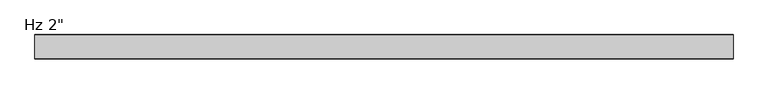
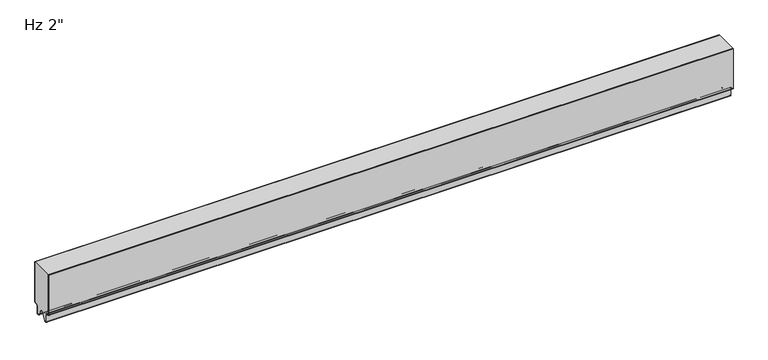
"""IFC4 building model written with IfcOpenShell, lengths in millimetres: plate geometry."""

import ifcopenshell
import ifcopenshell.guid

model = None  # the IFC model being written
_history = None  # IfcOwnerHistory: only IFC2X3 demands one
_inside = {}  # id of a spatial element -> (the spatial element, [elements in it])
_under = {}  # id of a project, library or spatial element -> (it, [spatial elements below it])
_declared = {}  # id of a project -> (the project, [libraries it declares])
_typed = {}  # id of a type object -> (the type object, [elements of that type])
_made_of = {}  # id of a material, layer set ... -> (it, [elements and type objects made of it])


def new_model(schema):
    """Start an empty IFC model of exactly this schema.

    Asked for "IFC4X3", IfcOpenShell would pick the latest addendum, in which some entities
    have other attributes; the version numbers below select the first issue.
    IFC2X3 requires an IfcOwnerHistory on every rooted entity: one is made here for all.
    """
    global model, _history
    if schema == "IFC4X3":
        model = ifcopenshell.file(schema_version=(4, 3, 0, 0))
    else:
        model = ifcopenshell.file(schema=schema)
    _inside.clear()
    _under.clear()
    _declared.clear()
    _typed.clear()
    _made_of.clear()
    _history = None
    if model.schema == "IFC2X3":
        org = make("IfcOrganization", Name="unknown")
        user = make(
            "IfcPersonAndOrganization",
            ThePerson=make("IfcPerson", FamilyName="unknown"),
            TheOrganization=org,
        )
        app = make(
            "IfcApplication",
            ApplicationDeveloper=org,
            Version="unknown",
            ApplicationFullName="unknown",
            ApplicationIdentifier="unknown",
        )
        _history = make(
            "IfcOwnerHistory",
            OwningUser=user,
            OwningApplication=app,
            ChangeAction="ADDED",
            CreationDate=0,
        )
    return model


def make(cls, **values):
    """One entity of the class cls with the attributes given. An attribute that is None is left unset."""
    return model.create_entity(
        cls, **{name: value for name, value in values.items() if value is not None}
    )


def rooted(cls, **values):
    """An entity with a GlobalId (a new one), such as an element, a storey or a relation."""
    return make(cls, GlobalId=ifcopenshell.guid.new(), OwnerHistory=_history, **values)


def si_unit(unit_type, name, prefix=None):
    """IfcSIUnit, for example si_unit("LENGTHUNIT", "METRE", prefix="MILLI")."""
    return make("IfcSIUnit", UnitType=unit_type, Prefix=prefix, Name=name)


def assignment(units):
    """IfcUnitAssignment: the units of a project."""
    return None if units is None else make("IfcUnitAssignment", Units=units)


def point(xyz):
    """IfcCartesianPoint."""
    return None if xyz is None else make("IfcCartesianPoint", Coordinates=xyz)


def direction(xyz):
    """IfcDirection."""
    return None if xyz is None else make("IfcDirection", DirectionRatios=xyz)


def frame(location, z_axis=None, x_axis=None):
    """IfcAxis2Placement3D, a coordinate frame: its origin and axes. An axis left out is left unset."""
    return make(
        "IfcAxis2Placement3D",
        Location=point(location),
        Axis=direction(z_axis),
        RefDirection=direction(x_axis),
    )


def origin():
    """The frame at (0, 0, 0) with its axes left unset."""
    return frame((0.0, 0.0, 0.0))


def place(relative_to, where):
    """IfcLocalPlacement: puts the frame where relative to a parent placement (None: the world)."""
    return make(
        "IfcLocalPlacement", PlacementRelTo=relative_to, RelativePlacement=where
    )


def context(
    kind, dimensions, precision=None, world=None, true_north=None, identifier=None
):
    """IfcGeometricRepresentationContext, for example the 3D "Model" context."""
    return make(
        "IfcGeometricRepresentationContext",
        ContextIdentifier=identifier,
        ContextType=kind,
        CoordinateSpaceDimension=dimensions,
        Precision=precision,
        WorldCoordinateSystem=world,
        TrueNorth=true_north,
    )


def project(units=None, contexts=None):
    """IfcProject with its units and contexts."""
    return rooted(
        "IfcProject",
        Name="project",
        RepresentationContexts=contexts,
        UnitsInContext=assignment(units),
    )


def spatial(cls, under=None, at=None, **own):
    """A site, building, storey or space (cls), placed at a placement, below another one or the project."""
    s = rooted(cls, ObjectPlacement=at, **own)
    if under is not None:
        _under.setdefault(under.id(), (under, []))[1].append(s)
    return s


def polyline(points):
    """IfcPolyline through the points."""
    return make("IfcPolyline", Points=[point(p) for p in points])


def circle_curve(where, radius):
    """IfcCircle in the frame where."""
    return make("IfcCircle", Position=where, Radius=radius)


def shape(context_of_items, identifier, shape_type, items):
    """IfcShapeRepresentation: the items that make up one representation, for example the "Body"."""
    return make(
        "IfcShapeRepresentation",
        ContextOfItems=context_of_items,
        RepresentationIdentifier=identifier,
        RepresentationType=shape_type,
        Items=items,
    )


def source(mapping_origin, context_of_items, identifier, shape_type, items):
    """IfcRepresentationMap: a shape defined once, which mapped items show again and again."""
    return make(
        "IfcRepresentationMap",
        MappingOrigin=mapping_origin,
        MappedRepresentation=shape(context_of_items, identifier, shape_type, items),
    )


def transform(
    local_origin,
    x_axis=None,
    y_axis=None,
    z_axis=None,
    scale=None,
    scale2=None,
    scale3=None,
    uniform=True,
):
    """IfcCartesianTransformationOperator3D, or its non-uniform kind. x_axis, y_axis, z_axis: its Axis1, 2, 3."""
    if uniform:
        return make(
            "IfcCartesianTransformationOperator3D",
            Axis1=direction(x_axis),
            Axis2=direction(y_axis),
            LocalOrigin=point(local_origin),
            Scale=scale,
            Axis3=direction(z_axis),
        )
    return make(
        "IfcCartesianTransformationOperator3DnonUniform",
        Axis1=direction(x_axis),
        Axis2=direction(y_axis),
        LocalOrigin=point(local_origin),
        Scale=scale,
        Axis3=direction(z_axis),
        Scale2=scale2,
        Scale3=scale3,
    )


def mapped(mapping_source, mapping_target):
    """IfcMappedItem: shows the shape of a source again, moved by a transform."""
    return make(
        "IfcMappedItem", MappingSource=mapping_source, MappingTarget=mapping_target
    )


def made_of(thing, what):
    """Note that an element or type object is made of a material, layer set ...; save() writes the relation."""
    if what is not None:
        _made_of.setdefault(what.id(), (what, []))[1].append(thing)
    return thing


def element(
    cls,
    number,
    at=None,
    inside=None,
    cuts=None,
    type_object=None,
    material=None,
    context=None,
    identifier="Body",
    shape_type=None,
    held_by="IfcProductDefinitionShape",
    body=None,
    shapes=None,
    **own,
):
    """One element of the class cls, such as IfcWall. Its Tag is "e" and its number.

    at: its placement. inside: the storey or other place that contains it. cuts: it is an
    opening in that element (IfcRelVoidsElement). A single representation is given by context,
    identifier, shape_type and body (its items); several are given by shapes. held_by: the class
    of the entity that holds the representations. save() writes the other relations.
    """
    e = rooted(cls, Tag="e%d" % number, ObjectPlacement=at, **own)
    if body is not None:
        shapes = [shape(context, identifier, shape_type, body)]
    if shapes is not None:
        e.Representation = make(held_by, Representations=shapes)
    if inside is not None:
        _inside.setdefault(inside.id(), (inside, []))[1].append(e)
    if cuts is not None:
        rooted(
            "IfcRelVoidsElement", RelatingBuildingElement=cuts, RelatedOpeningElement=e
        )
    if type_object is not None:
        _typed.setdefault(type_object.id(), (type_object, []))[1].append(e)
    return made_of(e, material)


def aggregate(whole, parts):
    """IfcRelAggregates: a whole, such as a stair, and the parts it consists of."""
    return rooted("IfcRelAggregates", RelatingObject=whole, RelatedObjects=parts)


def save(model, path):
    """Write the relations noted so far, then the file.

    IfcRelAggregates (storeys below a building ...), IfcRelContainedInSpatialStructure (elements
    in a storey), IfcRelDefinesByType, IfcRelAssociatesMaterial and IfcRelDeclares: one each for
    every whole, place, type object, material and project.
    """
    for whole, parts in _under.values():
        aggregate(whole, parts)
    for where, things in _inside.values():
        rooted(
            "IfcRelContainedInSpatialStructure",
            RelatedElements=things,
            RelatingStructure=where,
        )
    for kind, things in _typed.values():
        rooted("IfcRelDefinesByType", RelatedObjects=things, RelatingType=kind)
    for what, things in _made_of.values():
        rooted("IfcRelAssociatesMaterial", RelatedObjects=things, RelatingMaterial=what)
    for by, libraries in _declared.values():
        rooted("IfcRelDeclares", RelatingContext=by, RelatedDefinitions=libraries)
    model.write(path)


def plane_surface(at):
    """IfcPlane: the flat surface through the origin of the frame at, square to its z axis."""
    return make("IfcPlane", Position=at)


def cylinder_surface(at, radius):
    """IfcCylindricalSurface: all points at the distance radius from the z axis of the frame at."""
    return make("IfcCylindricalSurface", Position=at, Radius=radius)


def revolved_surface(curve, axis_point, axis_direction):
    """IfcSurfaceOfRevolution: the curve turned about the line through axis_point along axis_direction."""
    return make(
        "IfcSurfaceOfRevolution",
        SweptCurve=make("IfcArbitraryOpenProfileDef", ProfileType="CURVE", Curve=curve),
        AxisPosition=make("IfcAxis1Placement", Location=point(axis_point), Axis=direction(axis_direction)),
    )


def advanced_brep(points, edges, surfaces, faces):
    """IfcAdvancedBrep: a solid bounded by faces that lie on surfaces and meet in shared edges.

    An edge is (start, end): straight between two places in points (the first is 0);
    or (start, end, curve); or (start, end, curve, False) where it runs against its curve.
    A face is (place in surfaces, loops), or (place, loops, False) where it looks against
    its surface's normal. A loop lists edges by number (the first is 1), with a minus sign
    where the edge is run from its end to its start. The first loop is the outer one.
    """
    corners = [point(p) for p in points]
    vertices = [make("IfcVertexPoint", VertexGeometry=c) for c in corners]
    made = []
    for start, end, *more in edges:
        made.append(
            make(
                "IfcEdgeCurve",
                EdgeStart=vertices[start],
                EdgeEnd=vertices[end],
                EdgeGeometry=more[0] if more else make("IfcPolyline", Points=[corners[start], corners[end]]),
                SameSense=more[1] if len(more) > 1 else True,
            )
        )
    hull = []
    for where, loops, *sense in faces:
        bounds = []
        for j, loop in enumerate(loops):
            ring = [make("IfcOrientedEdge", EdgeElement=made[abs(k) - 1], Orientation=k > 0) for k in loop]
            bounds.append(
                make(
                    "IfcFaceOuterBound" if j == 0 else "IfcFaceBound",
                    Bound=make("IfcEdgeLoop", EdgeList=ring),
                    Orientation=True,
                )
            )
        hull.append(make("IfcAdvancedFace", Bounds=bounds, FaceSurface=surfaces[where], SameSense=sense[0] if sense else True))
    return make("IfcAdvancedBrep", Outer=make("IfcClosedShell", CfsFaces=hull))


def plate_0830cc51(model_context):
    return source(origin(), model_context, "Body", "AdvancedBrep", [
        advanced_brep(
        [(-730.0, -2.9775467, 3.8505994), (-730.0, -5.2690127, 3.8505994), (-730.0, -9.2466047, -0.1269926), (-730.0, -9.2466047, -15.7237817), (-730.0, -9.8343998, -16.3115768), (-730.0, -12.9058755, -16.3115768), (-730.0, -13.4937293, -15.723723), (-730.0, -13.4937293, -13.3687064), (-730.0, -14.4937446, -13.3687064), (-730.0, -14.4937446, -15.6582851), (-730.0, -23.7509179, 0.0), (-730.0, -27.0490865, 0.0), (-730.0, -36.3062598, -15.6582851), (-730.0, -36.3062598, -13.3687064), (-730.0, -37.3062598, -13.3687064), (-730.0, -37.3062598, -15.723742), (-730.0, -37.8941365, -16.3116186), (-730.0, -40.9656854, -16.3116186), (-730.0, -41.5535623, -15.7237417), (-730.0, -41.5535623, -0.1273173), (-730.0, -45.5308295, 3.8499499), (-730.0, -47.8227194, 3.8499499), (-730.0, -49.7999935, 5.8272239), (-730.0, -49.8, 94.95), (-730.0, -1.0005251, 94.95), (-730.0, -1.0005251, 5.7647234), (730.0, -2.9775467, 3.8505994), (730.0, -1.0005251, 5.7647234), (730.0, -1.0005251, 94.95), (730.0, -49.8, 94.95), (730.0, -49.8, 5.8272239), (730.0, -47.8227194, 3.8499499), (730.0, -45.5308295, 3.8499499), (730.0, -41.5535623, -0.1273173), (730.0, -41.5535623, -15.7237417), (730.0, -40.9656854, -16.3116186), (730.0, -37.8941365, -16.3116186), (730.0, -37.3062598, -15.723742), (730.0, -37.3062598, -13.3687064), (730.0, -36.3062598, -13.3687064), (730.0, -36.3062598, -15.6582851), (730.0, -27.0490865, 0.0), (730.0, -23.7509179, 0.0), (730.0, -14.4937446, -15.6582851), (730.0, -14.4937446, -13.3687064), (730.0, -13.4937293, -13.3687064), (730.0, -13.4937293, -15.723723), (730.0, -12.9058755, -16.3115768), (730.0, -9.8343998, -16.3115768), (730.0, -9.2466047, -15.7237817), (730.0, -9.2466047, -0.1269926), (730.0, -5.2690127, 3.8505994)],
        [
            (0, 1),
            (1, 2, circle_curve(frame((-730.0, -5.2690127, -0.1269926), z_axis=(1.0, 0.0, 0.0), x_axis=(0.0, 1.0, 0.0)), 3.977592)),
            (2, 3),
            (3, 4, circle_curve(frame((-730.0, -9.8343998, -15.7237817), z_axis=(-1.0, 0.0, 0.0), x_axis=(0.0, 1.0, 0.0)), 0.5877951)),
            (4, 5),
            (5, 6, circle_curve(frame((-730.0, -12.9058755, -15.723723), z_axis=(-1.0, 0.0, 0.0), x_axis=(0.0, 1.0, 0.0)), 0.5878538)),
            (6, 7),
            (7, 8),
            (8, 9),
            (9, 10),
            (10, 11),
            (11, 12),
            (12, 13),
            (13, 14),
            (14, 15),
            (15, 16, circle_curve(frame((-730.0, -37.8941365, -15.723742), z_axis=(-1.0, 0.0, 0.0), x_axis=(0.0, 1.0, 0.0)), 0.5878766)),
            (16, 17),
            (17, 18, circle_curve(frame((-730.0, -40.9656854, -15.7237417), z_axis=(-1.0, 0.0, 0.0), x_axis=(0.0, 1.0, 0.0)), 0.5878769)),
            (18, 19),
            (19, 20, circle_curve(frame((-730.0, -45.5308295, -0.1273173), z_axis=(1.0, 0.0, 0.0), x_axis=(0.0, 1.0, 0.0)), 3.9772671)),
            (20, 21),
            (21, 22, circle_curve(frame((-730.0, -47.8227194, 5.8272239), z_axis=(-1.0, 0.0, 0.0), x_axis=(0.0, 1.0, 0.0)), 1.977274)),
            (22, 23),
            (23, 24),
            (24, 25),
            (25, 0, circle_curve(frame((-730.0, -2.9775467, 5.8286544), z_axis=(-1.0, 0.0, 0.0), x_axis=(0.0, 1.0, 0.0)), 1.978055)),
            (26, 27, circle_curve(frame((730.0, -2.9775467, 5.8286544), z_axis=(1.0, 0.0, 0.0), x_axis=(0.0, 1.0, 0.0)), 1.978055)),
            (27, 28),
            (28, 29),
            (29, 30),
            (30, 31, circle_curve(frame((730.0, -47.8227194, 5.8272239), z_axis=(1.0, 0.0, 0.0), x_axis=(0.0, 1.0, 0.0)), 1.977274)),
            (31, 32),
            (32, 33, circle_curve(frame((730.0, -45.5308295, -0.1273173), z_axis=(-1.0, 0.0, 0.0), x_axis=(0.0, 1.0, 0.0)), 3.9772671)),
            (33, 34),
            (34, 35, circle_curve(frame((730.0, -40.9656854, -15.7237417), z_axis=(1.0, 0.0, 0.0), x_axis=(0.0, 1.0, 0.0)), 0.5878769)),
            (35, 36),
            (36, 37, circle_curve(frame((730.0, -37.8941365, -15.723742), z_axis=(1.0, 0.0, 0.0), x_axis=(0.0, 1.0, 0.0)), 0.5878766)),
            (37, 38),
            (38, 39),
            (39, 40),
            (40, 41),
            (41, 42),
            (42, 43),
            (43, 44),
            (44, 45),
            (45, 46),
            (46, 47, circle_curve(frame((730.0, -12.9058755, -15.723723), z_axis=(1.0, 0.0, 0.0), x_axis=(0.0, 1.0, 0.0)), 0.5878538)),
            (47, 48),
            (48, 49, circle_curve(frame((730.0, -9.8343998, -15.7237817), z_axis=(1.0, 0.0, 0.0), x_axis=(0.0, 1.0, 0.0)), 0.5877951)),
            (49, 50),
            (50, 51, circle_curve(frame((730.0, -5.2690127, -0.1269926), z_axis=(-1.0, 0.0, 0.0), x_axis=(0.0, 1.0, 0.0)), 3.977592)),
            (51, 26),
            (23, 29),
            (28, 24),
            (25, 27),
            (26, 0),
            (22, 30),
            (21, 31),
            (20, 32),
            (19, 33),
            (18, 34),
            (17, 35),
            (16, 36),
            (15, 37),
            (14, 38),
            (13, 39),
            (12, 40),
            (11, 41),
            (10, 42),
            (9, 43),
            (8, 44),
            (7, 45),
            (6, 46),
            (5, 47),
            (4, 48),
            (3, 49),
            (2, 50),
            (1, 51),
        ],
        [
            plane_surface(frame((-730.0, -49.8, 576.2625), z_axis=(-1.0, 0.0, 0.0), x_axis=(0.0, -1.0, 0.0))),
            plane_surface(frame((730.0, -49.8, 576.2625), z_axis=(1.0, 0.0, 0.0), x_axis=(0.0, -1.0, 0.0))),
            plane_surface(frame((730.0, 10.0, 94.95), z_axis=(0.0, 0.0, 1.0), x_axis=(-1.0, 0.0, 0.0))),
            cylinder_surface(frame((-730.0, -2.9775467, 5.8286544), z_axis=(-1.0, 0.0, 0.0), x_axis=(0.0, 1.0, 0.0)), 1.978055),
            plane_surface(frame((-730.0, -49.8, 1150.8100652), z_axis=(0.0, -1.0, 0.0), x_axis=(1.0, 0.0, 0.0))),
            cylinder_surface(frame((-730.0, -47.8227194, 5.8272239), z_axis=(-1.0, 0.0, 0.0), x_axis=(0.0, 1.0, 0.0)), 1.977274),
            plane_surface(frame((-730.0, -47.8227194, 3.8499499), z_axis=(0.0, 0.0, -1.0), x_axis=(1.0, 0.0, 0.0))),
            revolved_surface(polyline([(730.0, -41.553562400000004, -0.1273173), (-730.0, -41.553562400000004, -0.1273173)]), (-730.0, -45.5308295, -0.1273173), (1.0, 0.0, 0.0)),
            plane_surface(frame((-730.0, -41.5535623, -0.1273173), z_axis=(0.0, -1.0, 0.0), x_axis=(1.0, 0.0, 0.0))),
            cylinder_surface(frame((-730.0, -40.9656854, -15.7237417), z_axis=(-1.0, 0.0, 0.0), x_axis=(0.0, 1.0, 0.0)), 0.5878769),
            plane_surface(frame((-730.0, -40.9656854, -16.3116186), z_axis=(0.0, 0.0, -1.0), x_axis=(1.0, 0.0, 0.0))),
            cylinder_surface(frame((-730.0, -37.8941365, -15.723742), z_axis=(-1.0, 0.0, 0.0), x_axis=(0.0, 1.0, 0.0)), 0.5878766),
            plane_surface(frame((-730.0, -37.3062598, -15.723742), z_axis=(0.0, 1.0, 0.0), x_axis=(1.0, 0.0, 0.0))),
            plane_surface(frame((-730.0, -37.3062598, -13.3687064), z_axis=(0.0, 0.0, -1.0), x_axis=(1.0, 0.0, 0.0))),
            plane_surface(frame((-730.0, -36.3062598, -13.3687064), z_axis=(0.0, -1.0, 0.0), x_axis=(1.0, 0.0, 0.0))),
            plane_surface(frame((-730.0, -36.3062598, -15.6582851), z_axis=(0.0, 0.8608169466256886, -0.5089147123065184), x_axis=(1.0, 0.0, 0.0))),
            plane_surface(frame((-730.0, -27.0490865, 0.0), z_axis=(0.0, 0.0, -1.0), x_axis=(1.0, 0.0, 0.0))),
            plane_surface(frame((-730.0, -23.7509179, 0.0), z_axis=(0.0, -0.8608169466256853, -0.5089147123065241), x_axis=(1.0, 0.0, 0.0))),
            plane_surface(frame((-730.0, -14.4937446, -15.6582851), z_axis=(0.0, 1.0, 0.0), x_axis=(1.0, 0.0, 0.0))),
            plane_surface(frame((-730.0, -14.4937446, -13.3687064), z_axis=(0.0, 0.0, -1.0), x_axis=(1.0, 0.0, 0.0))),
            plane_surface(frame((-730.0, -13.4937293, -13.3687064), z_axis=(0.0, -1.0, 0.0), x_axis=(1.0, 0.0, 0.0))),
            cylinder_surface(frame((-730.0, -12.9058755, -15.723723), z_axis=(-1.0, 0.0, 0.0), x_axis=(0.0, 1.0, 0.0)), 0.5878538),
            plane_surface(frame((-730.0, -12.9058755, -16.3115768), z_axis=(0.0, 0.0, -1.0), x_axis=(1.0, 0.0, 0.0))),
            cylinder_surface(frame((-730.0, -9.8343998, -15.7237817), z_axis=(-1.0, 0.0, 0.0), x_axis=(0.0, 1.0, 0.0)), 0.5877951),
            plane_surface(frame((-730.0, -9.2466047, -15.7237817), z_axis=(0.0, 1.0, 0.0), x_axis=(1.0, 0.0, 0.0))),
            revolved_surface(polyline([(730.0, -1.2914207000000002, -0.1269926), (-730.0, -1.2914207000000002, -0.1269926)]), (-730.0, -5.2690127, -0.1269926), (1.0, 0.0, 0.0)),
            plane_surface(frame((-730.0, -5.2690127, 3.8505994), z_axis=(0.0, 0.0, -1.0), x_axis=(1.0, 0.0, 0.0))),
            plane_surface(frame((-730.0, -1.0005251, 5.7647234), z_axis=(0.0, 1.0, 0.0), x_axis=(1.0, 0.0, 0.0))),
        ],
        [
            (0, [[1, 2, 3, 4, 5, 6, 7, 8, 9, 10, 11, 12, 13, 14, 15, 16, 17, 18, 19, 20, 21, 22, 23, 24, 25, 26]]),
            (1, [[27, 28, 29, 30, 31, 32, 33, 34, 35, 36, 37, 38, 39, 40, 41, 42, 43, 44, 45, 46, 47, 48, 49, 50, 51, 52]]),
            (2, [[53, -29, 54, -24]]),
            (3, [[55, -27, 56, -26]]),
            (4, [[-30, -53, -23, 57]]),
            (5, [[58, -31, -57, -22]]),
            (6, [[59, -32, -58, -21]]),
            (7, [[60, -33, -59, -20]]),
            (8, [[61, -34, -60, -19]]),
            (9, [[62, -35, -61, -18]]),
            (10, [[63, -36, -62, -17]]),
            (11, [[64, -37, -63, -16]]),
            (12, [[65, -38, -64, -15]]),
            (13, [[66, -39, -65, -14]]),
            (14, [[67, -40, -66, -13]]),
            (15, [[68, -41, -67, -12]]),
            (16, [[69, -42, -68, -11]]),
            (17, [[70, -43, -69, -10]]),
            (18, [[71, -44, -70, -9]]),
            (19, [[72, -45, -71, -8]]),
            (20, [[73, -46, -72, -7]]),
            (21, [[74, -47, -73, -6]]),
            (22, [[75, -48, -74, -5]]),
            (23, [[76, -49, -75, -4]]),
            (24, [[77, -50, -76, -3]]),
            (25, [[78, -51, -77, -2]]),
            (26, [[-56, -52, -78, -1]]),
            (27, [[-25, -54, -28, -55]]),
        ],
    ),
        advanced_brep(
        [(-730.0, -2.9776189, 3.8501063), (-730.0, -1.0007088, 5.8270163), (-730.0, -1.0007088, 94.95), (-730.0, 0.0, 94.95), (-730.0, 0.0, 5.8272211), (-730.0, -2.977286, 2.8499526), (-730.0, -5.2691698, 2.8499526), (-730.0, -8.2464384, -0.1273159), (-730.0, -8.2464384, -15.7237419), (-730.0, -9.8343149, -17.3116185), (-730.0, -12.9058636, -17.3116185), (-730.0, -14.4937401, -15.7237419), (-730.0, -14.4937401, -13.3687064), (-730.0, -13.4937365, -13.3687064), (-730.0, -13.4937365, -15.7237374), (-730.0, -12.9058654, -16.3116086), (-730.0, -9.834334, -16.3116086), (-730.0, -9.2464768, -15.7237514), (-730.0, -9.2464768, -0.1272391), (-730.0, -5.2691315, 3.8501063), (730.0, -2.9776189, 3.8501063), (730.0, -5.2691315, 3.8501063), (730.0, -9.2464768, -0.1272391), (730.0, -9.2464768, -15.7237514), (730.0, -9.834334, -16.3116086), (730.0, -12.9058654, -16.3116086), (730.0, -13.4937365, -15.7237374), (730.0, -13.4937365, -13.3687064), (730.0, -14.4937401, -13.3687064), (730.0, -14.4937401, -15.7237419), (730.0, -12.9058636, -17.3116185), (730.0, -9.8343149, -17.3116185), (730.0, -8.2464384, -15.7237419), (730.0, -8.2464384, -0.1273159), (730.0, -5.2691698, 2.8499526), (730.0, -2.977286, 2.8499526), (730.0, -1.75e-05, 5.8272211), (730.0, 0.0, 94.95), (730.0, -1.0007088, 94.95), (730.0, -1.0007088, 5.8270163)],
        [
            (0, 1, circle_curve(frame((-730.0, -2.9776189, 5.8270163), z_axis=(1.0, 0.0, 0.0), x_axis=(0.0, 1.0, 0.0)), 1.9769101)),
            (1, 2),
            (2, 3),
            (3, 4),
            (4, 5, circle_curve(frame((-730.0, -2.977286, 5.8272211), z_axis=(-1.0, 0.0, 0.0), x_axis=(0.0, 1.0, 0.0)), 2.9772685)),
            (5, 6),
            (6, 7, circle_curve(frame((-730.0, -5.2691698, -0.1273159), z_axis=(1.0, 0.0, 0.0), x_axis=(0.0, 1.0, 0.0)), 2.9772685)),
            (7, 8),
            (8, 9, circle_curve(frame((-730.0, -9.8343149, -15.7237419), z_axis=(-1.0, 0.0, 0.0), x_axis=(0.0, 1.0, 0.0)), 1.5878765)),
            (9, 10),
            (10, 11, circle_curve(frame((-730.0, -12.9058636, -15.7237419), z_axis=(-1.0, 0.0, 0.0), x_axis=(0.0, 1.0, 0.0)), 1.5878765)),
            (11, 12),
            (12, 13),
            (13, 14),
            (14, 15, circle_curve(frame((-730.0, -12.9058654, -15.7237374), z_axis=(1.0, 0.0, 0.0), x_axis=(0.0, 1.0, 0.0)), 0.5878711)),
            (15, 16),
            (16, 17, circle_curve(frame((-730.0, -9.834334, -15.7237514), z_axis=(1.0, 0.0, 0.0), x_axis=(0.0, 1.0, 0.0)), 0.5878572)),
            (17, 18),
            (18, 19, circle_curve(frame((-730.0, -5.2691315, -0.1272391), z_axis=(-1.0, 0.0, 0.0), x_axis=(0.0, 1.0, 0.0)), 3.9773454)),
            (19, 0),
            (20, 21),
            (21, 22, circle_curve(frame((730.0, -5.2691315, -0.1272391), z_axis=(1.0, 0.0, 0.0), x_axis=(0.0, 1.0, 0.0)), 3.9773454)),
            (22, 23),
            (23, 24, circle_curve(frame((730.0, -9.834334, -15.7237514), z_axis=(-1.0, 0.0, 0.0), x_axis=(0.0, 1.0, 0.0)), 0.5878572)),
            (24, 25),
            (25, 26, circle_curve(frame((730.0, -12.9058654, -15.7237374), z_axis=(-1.0, 0.0, 0.0), x_axis=(0.0, 1.0, 0.0)), 0.5878711)),
            (26, 27),
            (27, 28),
            (28, 29),
            (29, 30, circle_curve(frame((730.0, -12.9058636, -15.7237419), z_axis=(1.0, 0.0, 0.0), x_axis=(0.0, 1.0, 0.0)), 1.5878765)),
            (30, 31),
            (31, 32, circle_curve(frame((730.0, -9.8343149, -15.7237419), z_axis=(1.0, 0.0, 0.0), x_axis=(0.0, 1.0, 0.0)), 1.5878765)),
            (32, 33),
            (33, 34, circle_curve(frame((730.0, -5.2691698, -0.1273159), z_axis=(-1.0, 0.0, 0.0), x_axis=(0.0, 1.0, 0.0)), 2.9772685)),
            (34, 35),
            (35, 36, circle_curve(frame((730.0, -2.977286, 5.8272211), z_axis=(1.0, 0.0, 0.0), x_axis=(0.0, 1.0, 0.0)), 2.9772685)),
            (36, 37),
            (37, 38),
            (38, 39),
            (39, 20, circle_curve(frame((730.0, -2.9776189, 5.8270163), z_axis=(-1.0, 0.0, 0.0), x_axis=(0.0, 1.0, 0.0)), 1.9769101)),
            (2, 38),
            (37, 3),
            (19, 21),
            (20, 0),
            (18, 22),
            (17, 23),
            (16, 24),
            (15, 25),
            (14, 26),
            (13, 27),
            (12, 28),
            (11, 29),
            (10, 30),
            (9, 31),
            (8, 32),
            (7, 33),
            (6, 34),
            (5, 35),
            (4, 36),
            (1, 39),
        ],
        [
            plane_surface(frame((-730.0, 0.0, 576.2625), z_axis=(-1.0, 0.0, 0.0), x_axis=(0.0, 1.0, 0.0))),
            plane_surface(frame((730.0, 0.0, 576.2625), z_axis=(1.0, 0.0, 0.0), x_axis=(0.0, 1.0, 0.0))),
            plane_surface(frame((730.0, 10.0, 94.95), z_axis=(0.0, 0.0, 1.0), x_axis=(-1.0, 0.0, 0.0))),
            plane_surface(frame((-730.0, -2.9776189, 3.8501063), z_axis=(0.0, 0.0, 1.0), x_axis=(1.0, 0.0, 0.0))),
            cylinder_surface(frame((-730.0, -5.2691315, -0.1272391), z_axis=(-1.0, 0.0, 0.0), x_axis=(0.0, 1.0, 0.0)), 3.9773454),
            plane_surface(frame((-730.0, -9.2464768, -0.1272391), z_axis=(0.0, -1.0, 0.0), x_axis=(1.0, 0.0, 0.0))),
            revolved_surface(polyline([(730.0, -9.2464768, -15.7237514), (-730.0, -9.2464768, -15.7237514)]), (-730.0, -9.834334, -15.7237514), (1.0, 0.0, 0.0)),
            plane_surface(frame((-730.0, -9.834334, -16.3116086), z_axis=(0.0, 0.0, 1.0), x_axis=(1.0, 0.0, 0.0))),
            revolved_surface(polyline([(730.0, -12.3179943, -15.7237374), (-730.0, -12.3179943, -15.7237374)]), (-730.0, -12.9058654, -15.7237374), (1.0, 0.0, 0.0)),
            plane_surface(frame((-730.0, -13.4937365, -15.7237374), z_axis=(0.0, 1.0, 0.0), x_axis=(1.0, 0.0, 0.0))),
            plane_surface(frame((-730.0, -13.4937365, -13.3687064), z_axis=(0.0, 0.0, 1.0), x_axis=(1.0, 0.0, 0.0))),
            plane_surface(frame((-730.0, -14.4937401, -13.3687064), z_axis=(0.0, -1.0, 0.0), x_axis=(1.0, 0.0, 0.0))),
            cylinder_surface(frame((-730.0, -12.9058636, -15.7237419), z_axis=(-1.0, 0.0, 0.0), x_axis=(0.0, 1.0, 0.0)), 1.5878765),
            plane_surface(frame((-730.0, -12.9058636, -17.3116185), z_axis=(0.0, 0.0, -1.0), x_axis=(1.0, 0.0, 0.0))),
            cylinder_surface(frame((-730.0, -9.8343149, -15.7237419), z_axis=(-1.0, 0.0, 0.0), x_axis=(0.0, 1.0, 0.0)), 1.5878765),
            plane_surface(frame((-730.0, -8.2464384, -15.7237419), z_axis=(0.0, 1.0, 0.0), x_axis=(1.0, 0.0, 0.0))),
            revolved_surface(polyline([(730.0, -2.2919013, -0.1273159), (-730.0, -2.2919013, -0.1273159)]), (-730.0, -5.2691698, -0.1273159), (1.0, 0.0, 0.0)),
            plane_surface(frame((-730.0, -5.2691698, 2.8499526), z_axis=(0.0, 0.0, -1.0), x_axis=(1.0, 0.0, 0.0))),
            cylinder_surface(frame((-730.0, -2.977286, 5.8272211), z_axis=(-1.0, 0.0, 0.0), x_axis=(0.0, 1.0, 0.0)), 2.9772685),
            plane_surface(frame((-730.0, 0.0, 5.8272211), z_axis=(0.0, 1.0, 0.0), x_axis=(1.0, 0.0, 0.0))),
            plane_surface(frame((-730.0, -1.0007088, 1150.812837), z_axis=(0.0, -1.0, 0.0), x_axis=(1.0, 0.0, 0.0))),
            revolved_surface(polyline([(730.0, -1.0007088, 5.8270163), (-730.0, -1.0007088, 5.8270163)]), (-730.0, -2.9776189, 5.8270163), (1.0, 0.0, 0.0)),
        ],
        [
            (0, [[1, 2, 3, 4, 5, 6, 7, 8, 9, 10, 11, 12, 13, 14, 15, 16, 17, 18, 19, 20]]),
            (1, [[21, 22, 23, 24, 25, 26, 27, 28, 29, 30, 31, 32, 33, 34, 35, 36, 37, 38, 39, 40]]),
            (2, [[41, -38, 42, -3]]),
            (3, [[43, -21, 44, -20]]),
            (4, [[45, -22, -43, -19]]),
            (5, [[46, -23, -45, -18]]),
            (6, [[47, -24, -46, -17]]),
            (7, [[48, -25, -47, -16]]),
            (8, [[49, -26, -48, -15]]),
            (9, [[50, -27, -49, -14]]),
            (10, [[51, -28, -50, -13]]),
            (11, [[52, -29, -51, -12]]),
            (12, [[53, -30, -52, -11]]),
            (13, [[54, -31, -53, -10]]),
            (14, [[55, -32, -54, -9]]),
            (15, [[56, -33, -55, -8]]),
            (16, [[57, -34, -56, -7]]),
            (17, [[58, -35, -57, -6]]),
            (18, [[59, -36, -58, -5]]),
            (19, [[-4, -42, -37, -59]]),
            (20, [[-39, -41, -2, 60]]),
            (21, [[-44, -40, -60, -1]]),
        ],
    ),
        advanced_brep(
        [(-730.0, -47.8223811, 3.8501063), (-730.0, -45.5308685, 3.8501063), (-730.0, -41.5535232, -0.1272391), (-730.0, -41.5535232, -15.7237514), (-730.0, -40.965666, -16.3116086), (-730.0, -37.8941346, -16.3116086), (-730.0, -37.3062635, -15.7237374), (-730.0, -37.3062635, -13.3687064), (-730.0, -36.3062599, -13.3687064), (-730.0, -36.3062599, -15.7237419), (-730.0, -37.8941364, -17.3116185), (-730.0, -40.9656851, -17.3116185), (-730.0, -42.5535616, -15.7237419), (-730.0, -42.5535616, -0.1273159), (-730.0, -45.5308302, 2.8499526), (-730.0, -47.822714, 2.8499526), (-730.0, -50.7999825, 5.8272211), (-730.0, -50.8, 94.95), (-730.0, -49.7992912, 94.95), (-730.0, -49.7992912, 5.8270163), (730.0, -47.8223811, 3.8501063), (730.0, -49.7992912, 5.8270163), (730.0, -49.7992912, 94.95), (730.0, -50.8, 94.95), (730.0, -50.8, 5.8272211), (730.0, -47.822714, 2.8499526), (730.0, -45.5308302, 2.8499526), (730.0, -42.5535616, -0.1273159), (730.0, -42.5535616, -15.7237419), (730.0, -40.9656851, -17.3116185), (730.0, -37.8941364, -17.3116185), (730.0, -36.3062599, -15.7237419), (730.0, -36.3062599, -13.3687064), (730.0, -37.3062635, -13.3687064), (730.0, -37.3062635, -15.7237374), (730.0, -37.8941346, -16.3116086), (730.0, -40.965666, -16.3116086), (730.0, -41.5535232, -15.7237514), (730.0, -41.5535232, -0.1272391), (730.0, -45.5308685, 3.8501063)],
        [
            (0, 1),
            (1, 2, circle_curve(frame((-730.0, -45.5308685, -0.1272391), z_axis=(-1.0, 0.0, 0.0), x_axis=(0.0, 0.0, -1.0)), 3.9773454)),
            (2, 3),
            (3, 4, circle_curve(frame((-730.0, -40.965666, -15.7237514), z_axis=(1.0, 0.0, 0.0), x_axis=(0.0, 0.0, -1.0)), 0.5878572)),
            (4, 5),
            (5, 6, circle_curve(frame((-730.0, -37.8941346, -15.7237374), z_axis=(1.0, 0.0, 0.0), x_axis=(0.0, 0.0, -1.0)), 0.5878711)),
            (6, 7),
            (7, 8),
            (8, 9),
            (9, 10, circle_curve(frame((-730.0, -37.8941364, -15.7237419), z_axis=(-1.0, 0.0, 0.0), x_axis=(0.0, 0.0, -1.0)), 1.5878765)),
            (10, 11),
            (11, 12, circle_curve(frame((-730.0, -40.9656851, -15.7237419), z_axis=(-1.0, 0.0, 0.0), x_axis=(0.0, 0.0, -1.0)), 1.5878765)),
            (12, 13),
            (13, 14, circle_curve(frame((-730.0, -45.5308302, -0.1273159), z_axis=(1.0, 0.0, 0.0), x_axis=(0.0, 0.0, -1.0)), 2.9772685)),
            (14, 15),
            (15, 16, circle_curve(frame((-730.0, -47.822714, 5.8272211), z_axis=(-1.0, 0.0, 0.0), x_axis=(0.0, 0.0, -1.0)), 2.9772685)),
            (16, 17),
            (17, 18),
            (18, 19),
            (19, 0, circle_curve(frame((-730.0, -47.8223811, 5.8270163), z_axis=(1.0, 0.0, 0.0), x_axis=(0.0, 0.0, -1.0)), 1.9769101)),
            (20, 21, circle_curve(frame((730.0, -47.8223811, 5.8270163), z_axis=(-1.0, 0.0, 0.0), x_axis=(0.0, 0.0, -1.0)), 1.9769101)),
            (21, 22),
            (22, 23),
            (23, 24),
            (24, 25, circle_curve(frame((730.0, -47.822714, 5.8272211), z_axis=(1.0, 0.0, 0.0), x_axis=(0.0, 0.0, -1.0)), 2.9772685)),
            (25, 26),
            (26, 27, circle_curve(frame((730.0, -45.5308302, -0.1273159), z_axis=(-1.0, 0.0, 0.0), x_axis=(0.0, 0.0, -1.0)), 2.9772685)),
            (27, 28),
            (28, 29, circle_curve(frame((730.0, -40.9656851, -15.7237419), z_axis=(1.0, 0.0, 0.0), x_axis=(0.0, 0.0, -1.0)), 1.5878765)),
            (29, 30),
            (30, 31, circle_curve(frame((730.0, -37.8941364, -15.7237419), z_axis=(1.0, 0.0, 0.0), x_axis=(0.0, 0.0, -1.0)), 1.5878765)),
            (31, 32),
            (32, 33),
            (33, 34),
            (34, 35, circle_curve(frame((730.0, -37.8941346, -15.7237374), z_axis=(-1.0, 0.0, 0.0), x_axis=(0.0, 0.0, -1.0)), 0.5878711)),
            (35, 36),
            (36, 37, circle_curve(frame((730.0, -40.965666, -15.7237514), z_axis=(-1.0, 0.0, 0.0), x_axis=(0.0, 0.0, -1.0)), 0.5878572)),
            (37, 38),
            (38, 39, circle_curve(frame((730.0, -45.5308685, -0.1272391), z_axis=(1.0, 0.0, 0.0), x_axis=(0.0, 0.0, -1.0)), 3.9773454)),
            (39, 20),
            (17, 23),
            (22, 18),
            (19, 21),
            (20, 0),
            (16, 24),
            (15, 25),
            (14, 26),
            (13, 27),
            (12, 28),
            (11, 29),
            (10, 30),
            (9, 31),
            (8, 32),
            (7, 33),
            (6, 34),
            (5, 35),
            (4, 36),
            (3, 37),
            (2, 38),
            (1, 39),
        ],
        [
            plane_surface(frame((-730.0, -50.8, 576.2625), z_axis=(-1.0, 0.0, 0.0), x_axis=(0.0, -1.0, 0.0))),
            plane_surface(frame((730.0, -50.8, 576.2625), z_axis=(1.0, 0.0, 0.0), x_axis=(0.0, -1.0, 0.0))),
            plane_surface(frame((730.0, 10.0, 94.95), z_axis=(0.0, 0.0, 1.0), x_axis=(-1.0, 0.0, 0.0))),
            revolved_surface(polyline([(730.0, -47.8223811, 3.8501062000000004), (-730.0, -47.8223811, 3.8501062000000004)]), (-730.0, -47.8223811, 5.8270163), (1.0, 0.0, 0.0)),
            plane_surface(frame((-730.0, -49.7992912, 5.8270163), z_axis=(0.0, 1.0, 0.0), x_axis=(1.0, 0.0, 0.0))),
            plane_surface(frame((-730.0, -50.8, 1150.8100652), z_axis=(0.0, -1.0, 0.0), x_axis=(1.0, 0.0, 0.0))),
            cylinder_surface(frame((-730.0, -47.822714, 5.8272211), z_axis=(-1.0, 0.0, 0.0), x_axis=(0.0, 0.0, -1.0)), 2.9772685),
            plane_surface(frame((-730.0, -47.822714, 2.8499526), z_axis=(0.0, 0.0, -1.0), x_axis=(1.0, 0.0, 0.0))),
            revolved_surface(polyline([(730.0, -45.5308302, -3.1045844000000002), (-730.0, -45.5308302, -3.1045844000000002)]), (-730.0, -45.5308302, -0.1273159), (1.0, 0.0, 0.0)),
            plane_surface(frame((-730.0, -42.5535616, -0.1273159), z_axis=(0.0, -1.0, 0.0), x_axis=(1.0, 0.0, 0.0))),
            cylinder_surface(frame((-730.0, -40.9656851, -15.7237419), z_axis=(-1.0, 0.0, 0.0), x_axis=(0.0, 0.0, -1.0)), 1.5878765),
            plane_surface(frame((-730.0, -40.9656851, -17.3116185), z_axis=(0.0, 0.0, -1.0), x_axis=(1.0, 0.0, 0.0))),
            cylinder_surface(frame((-730.0, -37.8941364, -15.7237419), z_axis=(-1.0, 0.0, 0.0), x_axis=(0.0, 0.0, -1.0)), 1.5878765),
            plane_surface(frame((-730.0, -36.3062599, -15.7237419), z_axis=(0.0, 1.0, 0.0), x_axis=(1.0, 0.0, 0.0))),
            plane_surface(frame((-730.0, -36.3062599, -13.3687064), z_axis=(0.0, 0.0, 1.0), x_axis=(1.0, 0.0, 0.0))),
            plane_surface(frame((-730.0, -37.3062635, -13.3687064), z_axis=(0.0, -1.0, 0.0), x_axis=(1.0, 0.0, 0.0))),
            revolved_surface(polyline([(730.0, -37.8941346, -16.3116085), (-730.0, -37.8941346, -16.3116085)]), (-730.0, -37.8941346, -15.7237374), (1.0, 0.0, 0.0)),
            plane_surface(frame((-730.0, -37.8941346, -16.3116086), z_axis=(0.0, 0.0, 1.0), x_axis=(1.0, 0.0, 0.0))),
            revolved_surface(polyline([(730.0, -40.965666, -16.3116086), (-730.0, -40.965666, -16.3116086)]), (-730.0, -40.965666, -15.7237514), (1.0, 0.0, 0.0)),
            plane_surface(frame((-730.0, -41.5535232, -15.7237514), z_axis=(0.0, 1.0, 0.0), x_axis=(1.0, 0.0, 0.0))),
            cylinder_surface(frame((-730.0, -45.5308685, -0.1272391), z_axis=(-1.0, 0.0, 0.0), x_axis=(0.0, 0.0, -1.0)), 3.9773454),
            plane_surface(frame((-730.0, -45.5308685, 3.8501063), z_axis=(0.0, 0.0, 1.0), x_axis=(1.0, 0.0, 0.0))),
        ],
        [
            (0, [[1, 2, 3, 4, 5, 6, 7, 8, 9, 10, 11, 12, 13, 14, 15, 16, 17, 18, 19, 20]]),
            (1, [[21, 22, 23, 24, 25, 26, 27, 28, 29, 30, 31, 32, 33, 34, 35, 36, 37, 38, 39, 40]]),
            (2, [[41, -23, 42, -18]]),
            (3, [[43, -21, 44, -20]]),
            (4, [[-19, -42, -22, -43]]),
            (5, [[-24, -41, -17, 45]]),
            (6, [[46, -25, -45, -16]]),
            (7, [[47, -26, -46, -15]]),
            (8, [[48, -27, -47, -14]]),
            (9, [[49, -28, -48, -13]]),
            (10, [[50, -29, -49, -12]]),
            (11, [[51, -30, -50, -11]]),
            (12, [[52, -31, -51, -10]]),
            (13, [[53, -32, -52, -9]]),
            (14, [[54, -33, -53, -8]]),
            (15, [[55, -34, -54, -7]]),
            (16, [[56, -35, -55, -6]]),
            (17, [[57, -36, -56, -5]]),
            (18, [[58, -37, -57, -4]]),
            (19, [[59, -38, -58, -3]]),
            (20, [[60, -39, -59, -2]]),
            (21, [[-44, -40, -60, -1]]),
        ],
    ),
    ])


if __name__ == "__main__":
    model = new_model("IFC4")
    model_context = context("Model", 3, world=origin())
    ifc_project = project(units=[si_unit("LENGTHUNIT", "METRE", prefix="MILLI")], contexts=[model_context])
    site = spatial("IfcSite", under=ifc_project)
    building = spatial("IfcBuilding", under=site)
    placement = place(None, origin())
    plate_shape = plate_0830cc51(model_context)
    element("IfcPlate", 1, ObjectType="KIP-SLI-FLI-R19-CP-Hz-FL_FL : Hz 2\"", at=placement, inside=building, context=model_context, shape_type="MappedRepresentation", body=[
        mapped(plate_shape, transform((0.0, 0.0, 0.0), x_axis=(1.0, 0.0, 0.0), y_axis=(0.0, 1.0, 0.0), z_axis=(0.0, 0.0, 1.0))),
    ])
    save(model, "model.ifc")
